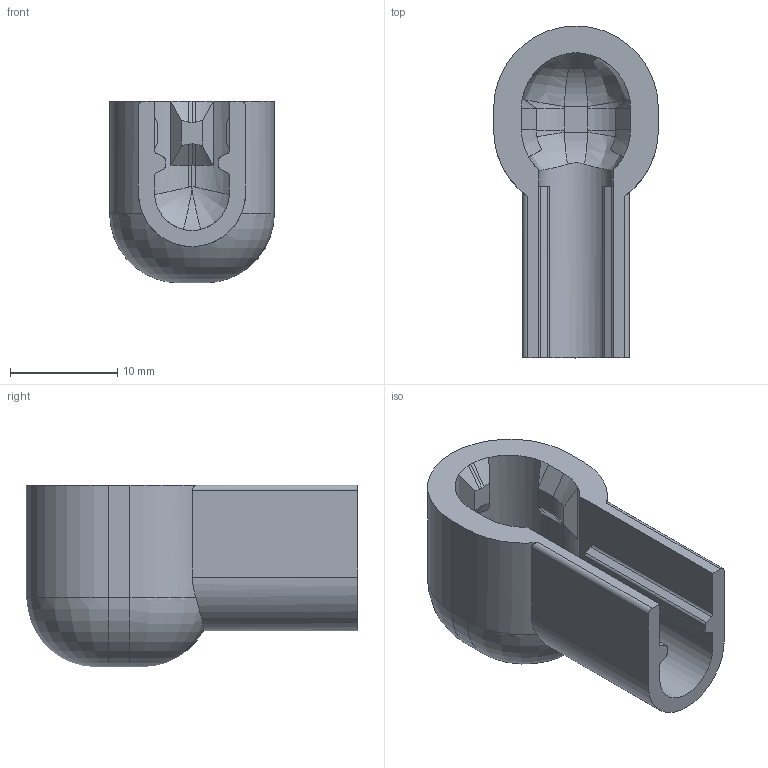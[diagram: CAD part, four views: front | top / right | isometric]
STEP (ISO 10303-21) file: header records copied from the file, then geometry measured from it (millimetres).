
FILE_DESCRIPTION(('Creo Elements/Direct Modeling STEP Export'),'2;1');
FILE_NAME('19990621_OA-BCP5.stp','2013-03-29T11:25:59',(''),(''),'Creo Elements/Direct Modeling STEP processor for AP214 (Solid Model)','Creo Elements/Direct Modeling 18.1B 29-Sep-2012 (C) Parametric Technology GmbH','');
FILE_SCHEMA(('AUTOMOTIVE_DESIGN { 1 0 10303 214 1 1 1 1 }'));
Length unit declared in the file: millimetre
Products named in the file (1): OA-BCP5
Bounding box: 15.4 x 31 x 17 mm (x, y, z)
Volume: 2646.8 mm3; surface area: 2456.6 mm2
Topology: 1 solids, 1 shells, 92 faces, 232 edges, 142 vertices
Faces by surface type: plane 37, cylinder 29, cone 16, torus 6, bspline 4
Entity records: 3970 total; most frequent: CARTESIAN_POINT 1802, ORIENTED_EDGE 464, DIRECTION 421, EDGE_CURVE 232, AXIS2_PLACEMENT_3D 158, VERTEX_POINT 142, VECTOR 105, LINE 105
